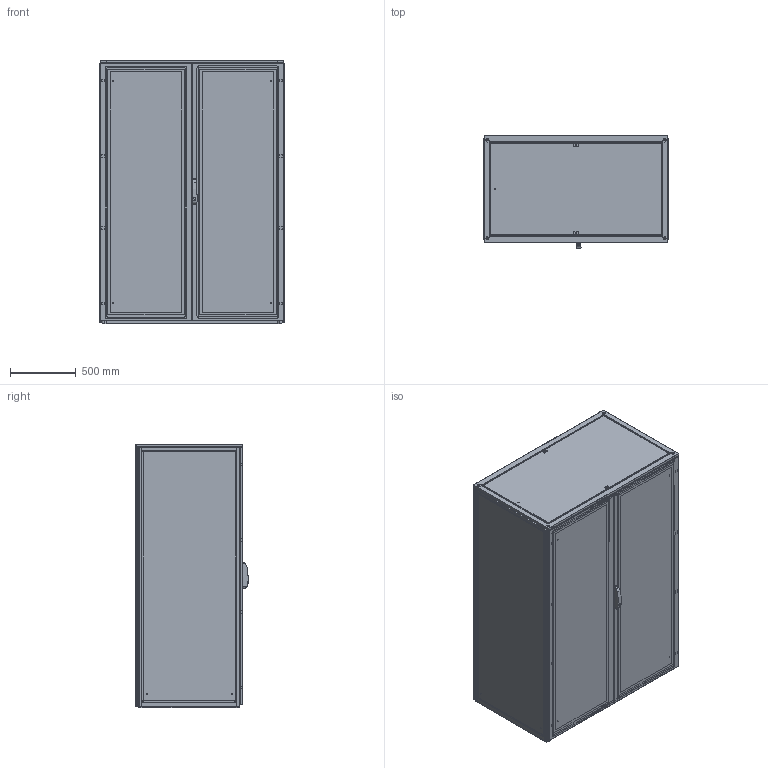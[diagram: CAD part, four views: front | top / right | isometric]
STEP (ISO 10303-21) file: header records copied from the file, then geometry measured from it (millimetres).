
FILE_DESCRIPTION(/* description */ ('STEP AP214'),/* implementation_level */ '2;1');
FILE_NAME(/* name */ 'ENUX142008PR -LOD350',/* time_stamp */ '2025-10-06T10:12:56+02:00',/* author */ ('License CC BY-ND 4.0'),/* organization */ ('CADENAS'),/* preprocessor_version */ 'ST-DEVELOPER v19.3',/* originating_system */ 'PARTsolutions',/* authorisation */ ' ');
FILE_SCHEMA (('AUTOMOTIVE_DESIGN {1 0 10303 214 3 1 1}'));
Length unit declared in the file: millimetre
Products named in the file (11): ENUX142008PR  -LOD350; ENUX142008PR  -LOD3501; ENUX142008PR  -LOD3507; ENUX142008PR  -LOD3502; ENUX142008PR  -LOD35011; ENUX142008PR  -LOD3503; ENUX142008PR  -LOD3508; ENUX142008PR  -LOD3505; ENUX142008PR  -LOD3504; ENUX142008PR  -LOD35010; ENUX142008PR  -LOD3509
Assembly tree (23 placements, depth 2):
  ENUX142008PR  -LOD350
    ENUX142008PR  -LOD3501
    ENUX142008PR  -LOD3507  x2
    ENUX142008PR  -LOD3502
    ENUX142008PR  -LOD35011
    ENUX142008PR  -LOD3503
    ENUX142008PR  -LOD3508
    ENUX142008PR  -LOD3505
    ENUX142008PR  -LOD3504
    ENUX142008PR  -LOD35010  x4
    ENUX142008PR  -LOD3509  x10
Bounding box: 1412 x 857 x 2008.5 mm (x, y, z)
Volume: 36792560.9 mm3; surface area: 31199179.7 mm2
Topology: 23 solids, 30 shells, 1788 faces, 4861 edges, 3188 vertices
Faces by surface type: plane 1098, cylinder 640, torus 30, cone 12, sphere 8
Full cylindrical faces by diameter (mm): 6 x15, 9 x13, 12 x4, 14 x2, 17 x2, 28 x2
Entity records: 36630 total; most frequent: CARTESIAN_POINT 6701, DIRECTION 6223, ORIENTED_EDGE 6118, EDGE_CURVE 3059, AXIS2_PLACEMENT_3D 2077, LINE 2069, VECTOR 2069, VERTEX_POINT 2022
